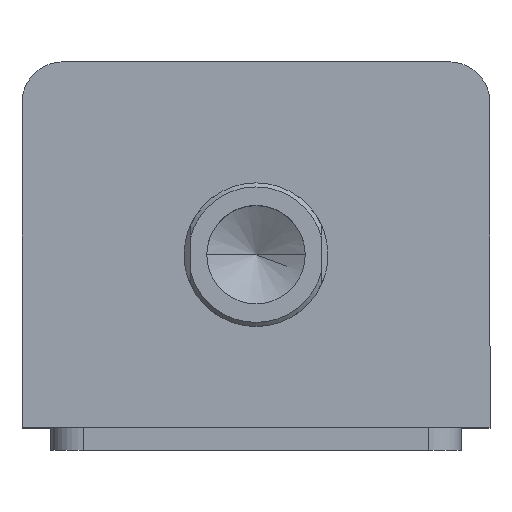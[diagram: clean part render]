
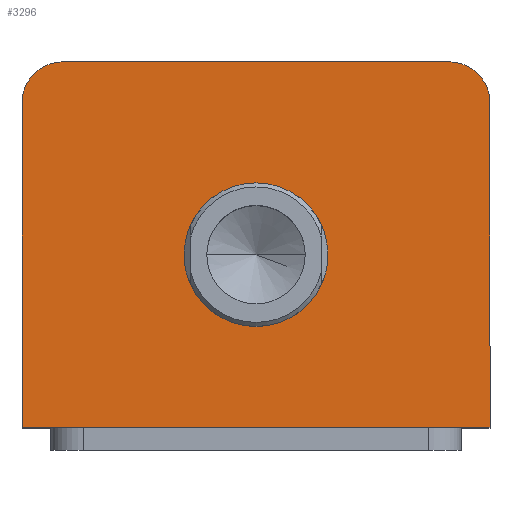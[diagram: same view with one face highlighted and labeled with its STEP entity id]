
A CAD part, top view. The second image highlights one B-rep face of the part: STEP entity #3296.
In plain terms, the highlighted planar face has unit normal (0, 0, 1).
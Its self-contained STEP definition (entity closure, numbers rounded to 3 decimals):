
#39 = CIRCLE ( 'NONE', #3182, 10. ) ;
#296 = CARTESIAN_POINT ( 'NONE',  ( 17.5, -2.5, 122. ) ) ;
#298 = CARTESIAN_POINT ( 'NONE',  ( 57., -44.5, 122. ) ) ;
#312 = CARTESIAN_POINT ( 'NONE',  ( 47., 44.5, 122. ) ) ;
#315 = CARTESIAN_POINT ( 'NONE',  ( -47., 44.5, 122. ) ) ;
#334 = CARTESIAN_POINT ( 'NONE',  ( 57., 34.5, 122. ) ) ;
#337 = CARTESIAN_POINT ( 'NONE',  ( -57., 34.5, 122. ) ) ;
#476 = PLANE ( 'NONE',  #3251 ) ;
#478 = CARTESIAN_POINT ( 'NONE',  ( 0., 0., 122. ) ) ;
#479 = DIRECTION ( 'NONE',  ( 0., 0., 1. ) ) ;
#480 = DIRECTION ( 'NONE',  ( 1., 0., 0. ) ) ;
#659 = CARTESIAN_POINT ( 'NONE',  ( -57., -44.5, 122. ) ) ;
#695 = LINE ( 'NONE', #2321, #698 ) ;
#698 = VECTOR ( 'NONE', #2322, 1000. ) ;
#699 = CIRCLE ( 'NONE', #3280, 10. ) ;
#724 = LINE ( 'NONE', #2233, #727 ) ;
#727 = VECTOR ( 'NONE', #2237, 1000. ) ;
#740 = FACE_OUTER_BOUND ( 'NONE', #1580, .T. ) ;
#762 = FACE_BOUND ( 'NONE', #2676, .T. ) ;
#951 = CARTESIAN_POINT ( 'NONE',  ( 0., -2.5, 122. ) ) ;
#952 = DIRECTION ( 'NONE',  ( 0., 0., 1. ) ) ;
#953 = DIRECTION ( 'NONE',  ( 1., 0., 0. ) ) ;
#954 = CARTESIAN_POINT ( 'NONE',  ( 0., -2.5, 122. ) ) ;
#955 = DIRECTION ( 'NONE',  ( 0., 0., 1. ) ) ;
#956 = DIRECTION ( 'NONE',  ( 1., 0., 0. ) ) ;
#1007 = CARTESIAN_POINT ( 'NONE',  ( 57., 44.5, 122. ) ) ;
#1008 = DIRECTION ( 'NONE',  ( 0., 1., 0. ) ) ;
#1150 = CIRCLE ( 'NONE', #3061, 17.5 ) ;
#1153 = CIRCLE ( 'NONE', #3060, 17.5 ) ;
#1196 = LINE ( 'NONE', #1007, #1199 ) ;
#1199 = VECTOR ( 'NONE', #1008, 1000. ) ;
#1506 = VERTEX_POINT ( 'NONE', #2070 ) ;
#1507 = VERTEX_POINT ( 'NONE', #659 ) ;
#1508 = VERTEX_POINT ( 'NONE', #296 ) ;
#1510 = VERTEX_POINT ( 'NONE', #298 ) ;
#1525 = VERTEX_POINT ( 'NONE', #312 ) ;
#1528 = VERTEX_POINT ( 'NONE', #315 ) ;
#1548 = VERTEX_POINT ( 'NONE', #334 ) ;
#1551 = VERTEX_POINT ( 'NONE', #337 ) ;
#1580 = EDGE_LOOP ( 'NONE', ( #2741, #2742, #2743, #2744, #2745, #2746 ) ) ;
#1804 = CARTESIAN_POINT ( 'NONE',  ( -57., 44.5, 122. ) ) ;
#1805 = DIRECTION ( 'NONE',  ( -1., 0., 0. ) ) ;
#1899 = LINE ( 'NONE', #1804, #1902 ) ;
#1902 = VECTOR ( 'NONE', #1805, 1000. ) ;
#2070 = CARTESIAN_POINT ( 'NONE',  ( -17.5, -2.5, 122. ) ) ;
#2233 = CARTESIAN_POINT ( 'NONE',  ( -57., -44.5, 122. ) ) ;
#2237 = DIRECTION ( 'NONE',  ( 1., 0., 0. ) ) ;
#2321 = CARTESIAN_POINT ( 'NONE',  ( -57., 44.5, 122. ) ) ;
#2322 = DIRECTION ( 'NONE',  ( 0., -1., 0. ) ) ;
#2331 = CARTESIAN_POINT ( 'NONE',  ( -47., 34.5, 122. ) ) ;
#2332 = DIRECTION ( 'NONE',  ( 0., 0., 1. ) ) ;
#2333 = DIRECTION ( 'NONE',  ( 1., 0., 0. ) ) ;
#2676 = EDGE_LOOP ( 'NONE', ( #2739, #2740 ) ) ;
#2739 = ORIENTED_EDGE ( 'NONE', *, *, #3563, .F. ) ;
#2740 = ORIENTED_EDGE ( 'NONE', *, *, #3561, .F. ) ;
#2741 = ORIENTED_EDGE ( 'NONE', *, *, #3459, .T. ) ;
#2742 = ORIENTED_EDGE ( 'NONE', *, *, #3160, .T. ) ;
#2743 = ORIENTED_EDGE ( 'NONE', *, *, #3152, .T. ) ;
#2744 = ORIENTED_EDGE ( 'NONE', *, *, #3205, .T. ) ;
#2745 = ORIENTED_EDGE ( 'NONE', *, *, #3587, .T. ) ;
#2746 = ORIENTED_EDGE ( 'NONE', *, *, #3360, .T. ) ;
#2857 = CARTESIAN_POINT ( 'NONE',  ( 47., 34.5, 122. ) ) ;
#2858 = DIRECTION ( 'NONE',  ( 0., 0., 1. ) ) ;
#2859 = DIRECTION ( 'NONE',  ( 1., 0., 0. ) ) ;
#3060 = AXIS2_PLACEMENT_3D ( 'NONE', #954, #955, #956 ) ;
#3061 = AXIS2_PLACEMENT_3D ( 'NONE', #951, #952, #953 ) ;
#3152 = EDGE_CURVE ( 'NONE', #1551, #1507, #695, .T. ) ;
#3160 = EDGE_CURVE ( 'NONE', #1528, #1551, #699, .T. ) ;
#3182 = AXIS2_PLACEMENT_3D ( 'NONE', #2857, #2858, #2859 ) ;
#3205 = EDGE_CURVE ( 'NONE', #1507, #1510, #724, .T. ) ;
#3251 = AXIS2_PLACEMENT_3D ( 'NONE', #478, #479, #480 ) ;
#3280 = AXIS2_PLACEMENT_3D ( 'NONE', #2331, #2332, #2333 ) ;
#3296 = ADVANCED_FACE ( 'NONE', ( #762, #740 ), #476, .T. ) ;
#3360 = EDGE_CURVE ( 'NONE', #1548, #1525, #39, .T. ) ;
#3459 = EDGE_CURVE ( 'NONE', #1525, #1528, #1899, .T. ) ;
#3561 = EDGE_CURVE ( 'NONE', #1506, #1508, #1150, .T. ) ;
#3563 = EDGE_CURVE ( 'NONE', #1508, #1506, #1153, .T. ) ;
#3587 = EDGE_CURVE ( 'NONE', #1510, #1548, #1196, .T. ) ;
